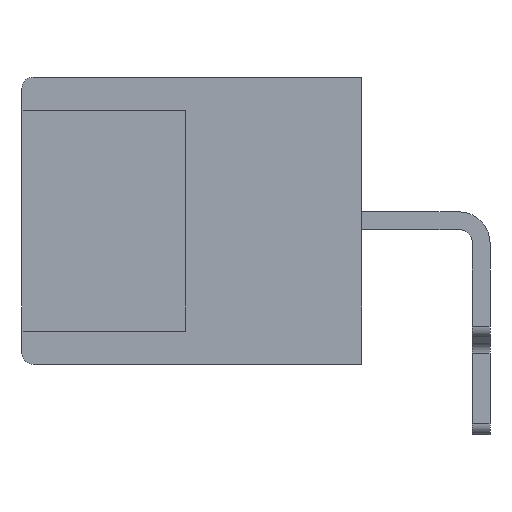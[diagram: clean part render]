
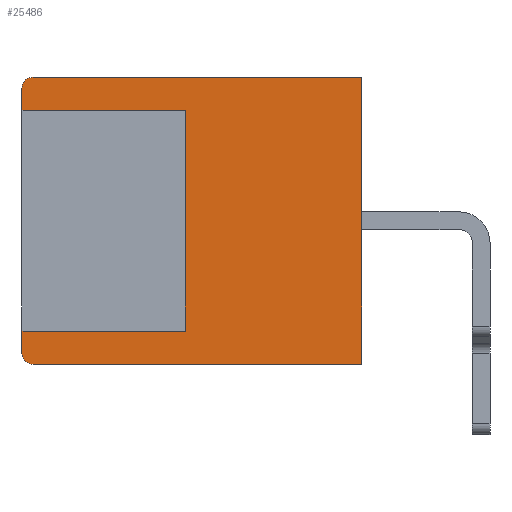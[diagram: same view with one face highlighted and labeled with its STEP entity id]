
A CAD part, left-side view. The second image highlights one B-rep face of the part: STEP entity #25486.
In plain terms, the highlighted planar face has unit normal (-1, 0, 0).
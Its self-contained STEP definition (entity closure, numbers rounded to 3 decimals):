
#1=CARTESIAN_POINT('',(7.25,14.9,-0.5));
#2=DIRECTION('',(-1.,0.,0.));
#3=DIRECTION('',(0.,0.,1.));
#4=AXIS2_PLACEMENT_3D('',#1,#2,#3);
#6=CARTESIAN_POINT('',(7.25,14.9,-12.5));
#7=DIRECTION('',(-1.,0.,0.));
#8=DIRECTION('',(0.,1.,0.));
#9=AXIS2_PLACEMENT_3D('',#6,#7,#8);
#15=DIRECTION('',(0.,-1.,0.));
#16=VECTOR('',#15,7.4);
#17=CARTESIAN_POINT('',(7.25,15.4,-11.5));
#18=LINE('',#17,#16);
#19=DIRECTION('',(0.,0.,1.));
#20=VECTOR('',#19,10.);
#21=CARTESIAN_POINT('',(7.25,8.,-11.5));
#22=LINE('',#21,#20);
#23=DIRECTION('',(0.,1.,0.));
#24=VECTOR('',#23,7.4);
#25=CARTESIAN_POINT('',(7.25,8.,-1.5));
#26=LINE('',#25,#24);
#51=DIRECTION('',(0.,0.,1.));
#52=VECTOR('',#51,1.);
#53=CARTESIAN_POINT('',(7.25,15.4,-12.5));
#54=LINE('',#53,#52);
#55=DIRECTION('',(0.,0.,1.));
#56=VECTOR('',#55,1.);
#57=CARTESIAN_POINT('',(7.25,15.4,-1.5));
#58=LINE('',#57,#56);
#92=DIRECTION('',(0.,1.,0.));
#93=VECTOR('',#92,14.9);
#94=CARTESIAN_POINT('',(7.25,0.,-13.));
#95=LINE('',#94,#93);
#156=DIRECTION('',(0.,0.,-1.));
#157=VECTOR('',#156,13.);
#158=CARTESIAN_POINT('',(7.25,0.,0.));
#159=LINE('',#158,#157);
#222=DIRECTION('',(0.,-1.,0.));
#223=VECTOR('',#222,14.9);
#224=CARTESIAN_POINT('',(7.25,14.9,0.));
#225=LINE('',#224,#223);
#21677=CARTESIAN_POINT('',(7.25,8.,-11.5));
#21678=CARTESIAN_POINT('',(7.25,8.,-1.5));
#21679=VERTEX_POINT('',#21677);
#21680=VERTEX_POINT('',#21678);
#21681=CARTESIAN_POINT('',(7.25,15.4,-1.5));
#21682=VERTEX_POINT('',#21681);
#21683=CARTESIAN_POINT('',(7.25,15.4,-0.5));
#21684=VERTEX_POINT('',#21683);
#21685=CARTESIAN_POINT('',(7.25,14.9,0.));
#21686=VERTEX_POINT('',#21685);
#21687=CARTESIAN_POINT('',(7.25,0.,0.));
#21688=VERTEX_POINT('',#21687);
#21689=CARTESIAN_POINT('',(7.25,0.,-13.));
#21690=VERTEX_POINT('',#21689);
#21691=CARTESIAN_POINT('',(7.25,14.9,-13.));
#21692=VERTEX_POINT('',#21691);
#21693=CARTESIAN_POINT('',(7.25,15.4,-12.5));
#21694=VERTEX_POINT('',#21693);
#21695=CARTESIAN_POINT('',(7.25,15.4,-11.5));
#21696=VERTEX_POINT('',#21695);
#25459=CARTESIAN_POINT('',(7.25,9.7,-12.25));
#25460=DIRECTION('',(1.,0.,0.));
#25461=DIRECTION('',(0.,-1.,0.));
#25462=AXIS2_PLACEMENT_3D('',#25459,#25460,#25461);
#25463=PLANE('',#25462);
#25465=ORIENTED_EDGE('',*,*,#25464,.T.);
#25467=ORIENTED_EDGE('',*,*,#25466,.T.);
#25469=ORIENTED_EDGE('',*,*,#25468,.T.);
#25471=ORIENTED_EDGE('',*,*,#25470,.T.);
#25473=ORIENTED_EDGE('',*,*,#25472,.F.);
#25475=ORIENTED_EDGE('',*,*,#25474,.T.);
#25477=ORIENTED_EDGE('',*,*,#25476,.T.);
#25479=ORIENTED_EDGE('',*,*,#25478,.T.);
#25481=ORIENTED_EDGE('',*,*,#25480,.F.);
#25483=ORIENTED_EDGE('',*,*,#25482,.T.);
#25484=EDGE_LOOP('',(#25465,#25467,#25469,#25471,#25473,#25475,#25477,#25479,
#25481,#25483));
#25485=FACE_OUTER_BOUND('',#25484,.F.);
#25486=ADVANCED_FACE('',(#25485),#25463,.F.);
#5=CIRCLE('',#4,0.5);
#10=CIRCLE('',#9,0.5);
#25464=EDGE_CURVE('',#21696,#21679,#18,.T.);
#25466=EDGE_CURVE('',#21679,#21680,#22,.T.);
#25468=EDGE_CURVE('',#21680,#21682,#26,.T.);
#25470=EDGE_CURVE('',#21682,#21684,#58,.T.);
#25472=EDGE_CURVE('',#21686,#21684,#5,.T.);
#25474=EDGE_CURVE('',#21686,#21688,#225,.T.);
#25476=EDGE_CURVE('',#21688,#21690,#159,.T.);
#25478=EDGE_CURVE('',#21690,#21692,#95,.T.);
#25480=EDGE_CURVE('',#21694,#21692,#10,.T.);
#25482=EDGE_CURVE('',#21694,#21696,#54,.T.);
